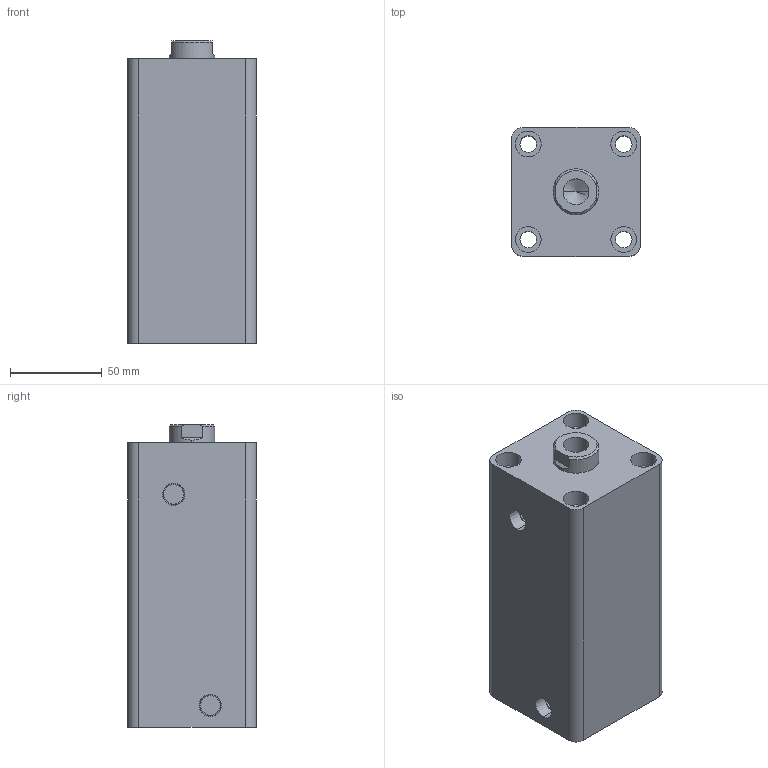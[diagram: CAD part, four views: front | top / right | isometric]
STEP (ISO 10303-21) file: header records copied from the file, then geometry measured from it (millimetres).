
FILE_DESCRIPTION (( 'STEP AP203' ), '1' );
FILE_NAME ('HTB-SD40-100N.STEP', '2019-10-07T06:58:52', ( '微软用户' ), ( '微软中国' ), 'SwSTEP 2.0', 'SolidWorks 2012', '' );
FILE_SCHEMA (( 'CONFIG_CONTROL_DESIGN' ));
Length unit declared in the file: millimetre
Products named in the file (3): HTB-SD40-100掛极; HTB-SD40-100N活塞杆; HTB-SD40-100N
Assembly tree (2 placements, depth 2):
  HTB-SD40-100N
    HTB-SD40-100掛极
    HTB-SD40-100N活塞杆
Bounding box: 70 x 70 x 165 mm (x, y, z)
Volume: 631645.6 mm3; surface area: 105180.3 mm2
Topology: 2 solids, 2 shells, 81 faces, 180 edges, 117 vertices
Faces by surface type: cylinder 42, plane 27, cone 8, torus 4
Entity records: 2603 total; most frequent: DIRECTION 444, CARTESIAN_POINT 409, ORIENTED_EDGE 356, AXIS2_PLACEMENT_3D 188, EDGE_CURVE 178, VERTEX_POINT 117, EDGE_LOOP 105, CIRCLE 102
